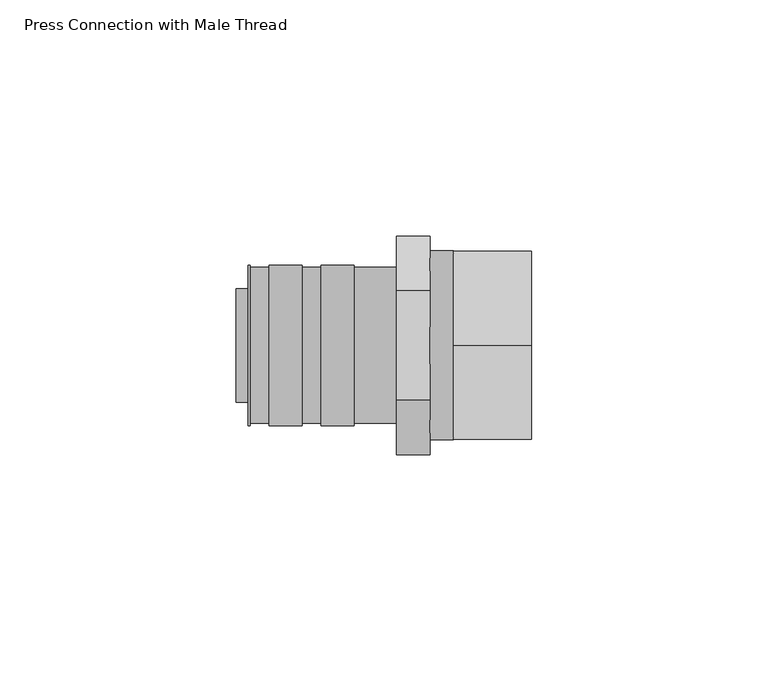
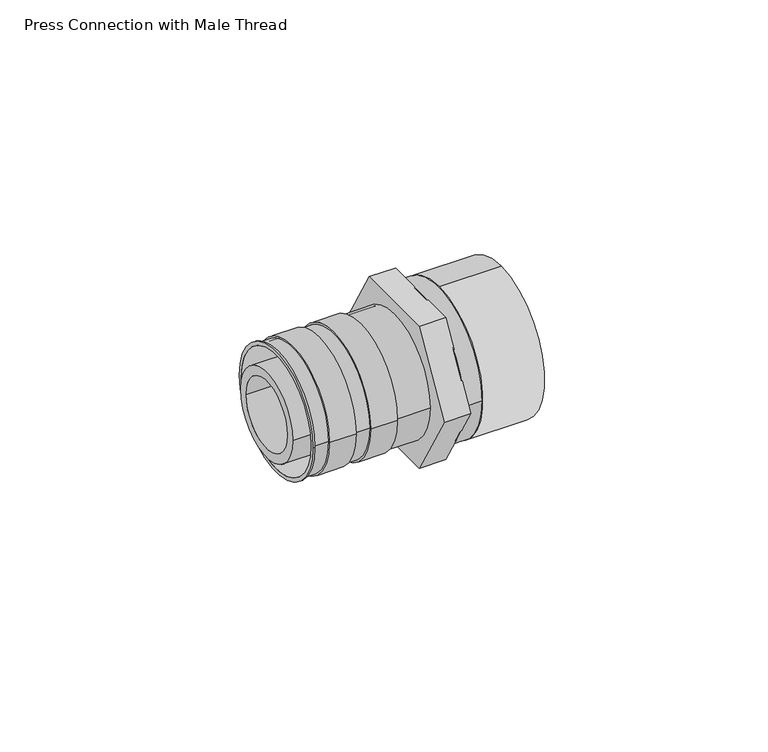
"""IFC4 building model written with IfcOpenShell, lengths in millimetres: pipe fitting geometry, Press Connection with Male Thread : Superpipe Press Connection - 32x1¼” MT."""

import ifcopenshell
import ifcopenshell.guid

model = None  # the IFC model being written
_history = None  # IfcOwnerHistory: only IFC2X3 demands one
_inside = {}  # id of a spatial element -> (the spatial element, [elements in it])
_under = {}  # id of a project, library or spatial element -> (it, [spatial elements below it])
_declared = {}  # id of a project -> (the project, [libraries it declares])
_typed = {}  # id of a type object -> (the type object, [elements of that type])
_made_of = {}  # id of a material, layer set ... -> (it, [elements and type objects made of it])


def new_model(schema):
    """Start an empty IFC model of exactly this schema.

    Asked for "IFC4X3", IfcOpenShell would pick the latest addendum, in which some entities
    have other attributes; the version numbers below select the first issue.
    IFC2X3 requires an IfcOwnerHistory on every rooted entity: one is made here for all.
    """
    global model, _history
    if schema == "IFC4X3":
        model = ifcopenshell.file(schema_version=(4, 3, 0, 0))
    else:
        model = ifcopenshell.file(schema=schema)
    _inside.clear()
    _under.clear()
    _declared.clear()
    _typed.clear()
    _made_of.clear()
    _history = None
    if model.schema == "IFC2X3":
        org = make("IfcOrganization", Name="unknown")
        user = make(
            "IfcPersonAndOrganization",
            ThePerson=make("IfcPerson", FamilyName="unknown"),
            TheOrganization=org,
        )
        app = make(
            "IfcApplication",
            ApplicationDeveloper=org,
            Version="unknown",
            ApplicationFullName="unknown",
            ApplicationIdentifier="unknown",
        )
        _history = make(
            "IfcOwnerHistory",
            OwningUser=user,
            OwningApplication=app,
            ChangeAction="ADDED",
            CreationDate=0,
        )
    return model


def make(cls, **values):
    """One entity of the class cls with the attributes given. An attribute that is None is left unset."""
    return model.create_entity(
        cls, **{name: value for name, value in values.items() if value is not None}
    )


def rooted(cls, **values):
    """An entity with a GlobalId (a new one), such as an element, a storey or a relation."""
    return make(cls, GlobalId=ifcopenshell.guid.new(), OwnerHistory=_history, **values)


def si_unit(unit_type, name, prefix=None):
    """IfcSIUnit, for example si_unit("LENGTHUNIT", "METRE", prefix="MILLI")."""
    return make("IfcSIUnit", UnitType=unit_type, Prefix=prefix, Name=name)


def assignment(units):
    """IfcUnitAssignment: the units of a project."""
    return None if units is None else make("IfcUnitAssignment", Units=units)


def point(xyz):
    """IfcCartesianPoint."""
    return None if xyz is None else make("IfcCartesianPoint", Coordinates=xyz)


def direction(xyz):
    """IfcDirection."""
    return None if xyz is None else make("IfcDirection", DirectionRatios=xyz)


def frame(location, z_axis=None, x_axis=None):
    """IfcAxis2Placement3D, a coordinate frame: its origin and axes. An axis left out is left unset."""
    return make(
        "IfcAxis2Placement3D",
        Location=point(location),
        Axis=direction(z_axis),
        RefDirection=direction(x_axis),
    )


def frame_2d(location, x_axis=None):
    """IfcAxis2Placement2D, a coordinate frame in the plane: its origin and x axis."""
    return make(
        "IfcAxis2Placement2D", Location=point(location), RefDirection=direction(x_axis)
    )


def origin():
    """The frame at (0, 0, 0) with its axes left unset."""
    return frame((0.0, 0.0, 0.0))


def origin_2d():
    """The frame at (0, 0) in the plane with its x axis left unset."""
    return frame_2d((0.0, 0.0))


def place(relative_to, where):
    """IfcLocalPlacement: puts the frame where relative to a parent placement (None: the world)."""
    return make(
        "IfcLocalPlacement", PlacementRelTo=relative_to, RelativePlacement=where
    )


def context(
    kind, dimensions, precision=None, world=None, true_north=None, identifier=None
):
    """IfcGeometricRepresentationContext, for example the 3D "Model" context."""
    return make(
        "IfcGeometricRepresentationContext",
        ContextIdentifier=identifier,
        ContextType=kind,
        CoordinateSpaceDimension=dimensions,
        Precision=precision,
        WorldCoordinateSystem=world,
        TrueNorth=true_north,
    )


def project(units=None, contexts=None):
    """IfcProject with its units and contexts."""
    return rooted(
        "IfcProject",
        Name="project",
        RepresentationContexts=contexts,
        UnitsInContext=assignment(units),
    )


def spatial(cls, under=None, at=None, **own):
    """A site, building, storey or space (cls), placed at a placement, below another one or the project."""
    s = rooted(cls, ObjectPlacement=at, **own)
    if under is not None:
        _under.setdefault(under.id(), (under, []))[1].append(s)
    return s


def polyline(points):
    """IfcPolyline through the points."""
    return make("IfcPolyline", Points=[point(p) for p in points])


def circle_curve(where, radius):
    """IfcCircle in the frame where."""
    return make("IfcCircle", Position=where, Radius=radius)


def trimmed(basis, trim1, trim2, sense, master):
    """IfcTrimmedCurve: the piece of a basis curve between two trims."""
    return make(
        "IfcTrimmedCurve",
        BasisCurve=basis,
        Trim1=trim1,
        Trim2=trim2,
        SenseAgreement=sense,
        MasterRepresentation=master,
    )


def segment(curve, same_sense, transition):
    """IfcCompositeCurveSegment."""
    return make(
        "IfcCompositeCurveSegment",
        Transition=transition,
        SameSense=same_sense,
        ParentCurve=curve,
    )


def composite_curve(segments, self_intersect=None):
    """IfcCompositeCurve: segments joined end to end."""
    return make("IfcCompositeCurve", Segments=segments, SelfIntersect=self_intersect)


def outline(outer, holes=None, kind="AREA"):
    """IfcArbitraryClosedProfileDef: a profile drawn as a closed curve; with holes, ...WithVoids."""
    if holes is None:
        return make("IfcArbitraryClosedProfileDef", ProfileType=kind, OuterCurve=outer)
    return make(
        "IfcArbitraryProfileDefWithVoids",
        ProfileType=kind,
        OuterCurve=outer,
        InnerCurves=holes,
    )


def extrude(swept, where, along, depth):
    """IfcExtrudedAreaSolid: the profile swept, set in the frame where, extruded along a direction by depth."""
    return make(
        "IfcExtrudedAreaSolid",
        SweptArea=swept,
        Position=where,
        ExtrudedDirection=direction(along),
        Depth=depth,
    )


def shape(context_of_items, identifier, shape_type, items):
    """IfcShapeRepresentation: the items that make up one representation, for example the "Body"."""
    return make(
        "IfcShapeRepresentation",
        ContextOfItems=context_of_items,
        RepresentationIdentifier=identifier,
        RepresentationType=shape_type,
        Items=items,
    )


def source(mapping_origin, context_of_items, identifier, shape_type, items):
    """IfcRepresentationMap: a shape defined once, which mapped items show again and again."""
    return make(
        "IfcRepresentationMap",
        MappingOrigin=mapping_origin,
        MappedRepresentation=shape(context_of_items, identifier, shape_type, items),
    )


def transform(
    local_origin,
    x_axis=None,
    y_axis=None,
    z_axis=None,
    scale=None,
    scale2=None,
    scale3=None,
    uniform=True,
):
    """IfcCartesianTransformationOperator3D, or its non-uniform kind. x_axis, y_axis, z_axis: its Axis1, 2, 3."""
    if uniform:
        return make(
            "IfcCartesianTransformationOperator3D",
            Axis1=direction(x_axis),
            Axis2=direction(y_axis),
            LocalOrigin=point(local_origin),
            Scale=scale,
            Axis3=direction(z_axis),
        )
    return make(
        "IfcCartesianTransformationOperator3DnonUniform",
        Axis1=direction(x_axis),
        Axis2=direction(y_axis),
        LocalOrigin=point(local_origin),
        Scale=scale,
        Axis3=direction(z_axis),
        Scale2=scale2,
        Scale3=scale3,
    )


def mapped(mapping_source, mapping_target):
    """IfcMappedItem: shows the shape of a source again, moved by a transform."""
    return make(
        "IfcMappedItem", MappingSource=mapping_source, MappingTarget=mapping_target
    )


def made_of(thing, what):
    """Note that an element or type object is made of a material, layer set ...; save() writes the relation."""
    if what is not None:
        _made_of.setdefault(what.id(), (what, []))[1].append(thing)
    return thing


def element(
    cls,
    number,
    at=None,
    inside=None,
    cuts=None,
    type_object=None,
    material=None,
    context=None,
    identifier="Body",
    shape_type=None,
    held_by="IfcProductDefinitionShape",
    body=None,
    shapes=None,
    **own,
):
    """One element of the class cls, such as IfcWall. Its Tag is "e" and its number.

    at: its placement. inside: the storey or other place that contains it. cuts: it is an
    opening in that element (IfcRelVoidsElement). A single representation is given by context,
    identifier, shape_type and body (its items); several are given by shapes. held_by: the class
    of the entity that holds the representations. save() writes the other relations.
    """
    e = rooted(cls, Tag="e%d" % number, ObjectPlacement=at, **own)
    if body is not None:
        shapes = [shape(context, identifier, shape_type, body)]
    if shapes is not None:
        e.Representation = make(held_by, Representations=shapes)
    if inside is not None:
        _inside.setdefault(inside.id(), (inside, []))[1].append(e)
    if cuts is not None:
        rooted(
            "IfcRelVoidsElement", RelatingBuildingElement=cuts, RelatedOpeningElement=e
        )
    if type_object is not None:
        _typed.setdefault(type_object.id(), (type_object, []))[1].append(e)
    return made_of(e, material)


def aggregate(whole, parts):
    """IfcRelAggregates: a whole, such as a stair, and the parts it consists of."""
    return rooted("IfcRelAggregates", RelatingObject=whole, RelatedObjects=parts)


def save(model, path):
    """Write the relations noted so far, then the file.

    IfcRelAggregates (storeys below a building ...), IfcRelContainedInSpatialStructure (elements
    in a storey), IfcRelDefinesByType, IfcRelAssociatesMaterial and IfcRelDeclares: one each for
    every whole, place, type object, material and project.
    """
    for whole, parts in _under.values():
        aggregate(whole, parts)
    for where, things in _inside.values():
        rooted(
            "IfcRelContainedInSpatialStructure",
            RelatedElements=things,
            RelatingStructure=where,
        )
    for kind, things in _typed.values():
        rooted("IfcRelDefinesByType", RelatedObjects=things, RelatingType=kind)
    for what, things in _made_of.values():
        rooted("IfcRelAssociatesMaterial", RelatedObjects=things, RelatingMaterial=what)
    for by, libraries in _declared.values():
        rooted("IfcRelDeclares", RelatingContext=by, RelatedDefinitions=libraries)
    model.write(path)


def plane_surface(at):
    """IfcPlane: the flat surface through the origin of the frame at, square to its z axis."""
    return make("IfcPlane", Position=at)


def cylinder_surface(at, radius):
    """IfcCylindricalSurface: all points at the distance radius from the z axis of the frame at."""
    return make("IfcCylindricalSurface", Position=at, Radius=radius)


def revolved_surface(curve, axis_point, axis_direction):
    """IfcSurfaceOfRevolution: the curve turned about the line through axis_point along axis_direction."""
    return make(
        "IfcSurfaceOfRevolution",
        SweptCurve=make("IfcArbitraryOpenProfileDef", ProfileType="CURVE", Curve=curve),
        AxisPosition=make("IfcAxis1Placement", Location=point(axis_point), Axis=direction(axis_direction)),
    )


def advanced_brep(points, edges, surfaces, faces):
    """IfcAdvancedBrep: a solid bounded by faces that lie on surfaces and meet in shared edges.

    An edge is (start, end): straight between two places in points (the first is 0);
    or (start, end, curve); or (start, end, curve, False) where it runs against its curve.
    A face is (place in surfaces, loops), or (place, loops, False) where it looks against
    its surface's normal. A loop lists edges by number (the first is 1), with a minus sign
    where the edge is run from its end to its start. The first loop is the outer one.
    """
    corners = [point(p) for p in points]
    vertices = [make("IfcVertexPoint", VertexGeometry=c) for c in corners]
    made = []
    for start, end, *more in edges:
        made.append(
            make(
                "IfcEdgeCurve",
                EdgeStart=vertices[start],
                EdgeEnd=vertices[end],
                EdgeGeometry=more[0] if more else make("IfcPolyline", Points=[corners[start], corners[end]]),
                SameSense=more[1] if len(more) > 1 else True,
            )
        )
    hull = []
    for where, loops, *sense in faces:
        bounds = []
        for j, loop in enumerate(loops):
            ring = [make("IfcOrientedEdge", EdgeElement=made[abs(k) - 1], Orientation=k > 0) for k in loop]
            bounds.append(
                make(
                    "IfcFaceOuterBound" if j == 0 else "IfcFaceBound",
                    Bound=make("IfcEdgeLoop", EdgeList=ring),
                    Orientation=True,
                )
            )
        hull.append(make("IfcAdvancedFace", Bounds=bounds, FaceSurface=surfaces[where], SameSense=sense[0] if sense else True))
    return make("IfcAdvancedBrep", Outer=make("IfcClosedShell", CfsFaces=hull))


def press_connection_with_male_thread_86ed2f91(model_context):
    return source(origin(), model_context, "Body", "SolidModel", [
        extrude(outline(composite_curve([segment(trimmed(circle_curve(origin_2d(), 20.0), [point((0.0, -20.0))], [point((0.0, 20.0))], False, "CARTESIAN"), True, "CONTINUOUS"), segment(trimmed(circle_curve(origin_2d(), 20.0), [point((0.0, 20.0))], [point((0.0, -20.0))], False, "CARTESIAN"), True, "CONTINUOUS")], self_intersect=False), holes=[composite_curve([segment(trimmed(circle_curve(origin_2d(), 16.0), [point((0.0, -16.0))], [point((0.0, 16.0))], True, "CARTESIAN"), True, "CONTINUOUS"), segment(trimmed(circle_curve(origin_2d(), 16.0), [point((0.0, 16.0))], [point((0.0, -16.0))], True, "CARTESIAN"), True, "CONTINUOUS")], self_intersect=False)]), frame((46.0, 0.0, 0.0), z_axis=(1.0, 0.0, 0.0), x_axis=(0.0, 1.0, 0.0)), (0.0, 0.0, 1.0), 16.5),
        advanced_brep(
        [(2.5, 17.0, 0.0), (2.5, -17.0, 0.0), (2.5, 16.0, 0.0), (2.5, -16.0, 0.0), (34.0, -16.5, 0.0), (34.0, 16.5, 0.0), (34.0, 16.0, 0.0), (34.0, -16.0, 0.0), (3.0, 17.0, 0.0), (3.0, -17.0, 0.0), (25.0, 17.0, 0.0), (25.0, -17.0, 0.0), (18.0, -17.0, 0.0), (18.0, 17.0, 0.0), (14.0, 17.0, 0.0), (14.0, -17.0, 0.0), (7.0, -17.0, 0.0), (7.0, 17.0, 0.0), (25.0, 16.5, 0.0), (25.0, -16.5, 0.0), (18.0, -16.5, 0.0), (18.0, 16.5, 0.0), (14.0, 16.5, 0.0), (14.0, -16.5, 0.0), (7.0, -16.5, 0.0), (7.0, 16.5, 0.0), (3.0, 16.5, 0.0), (3.0, -16.5, 0.0)],
        [
            (0, 1, circle_curve(frame((2.5, 0.0, 0.0), z_axis=(-1.0, 0.0, 0.0), x_axis=(0.0, -1.0, 0.0)), 17.0)),
            (1, 0, circle_curve(frame((2.5, 0.0, 0.0), z_axis=(-1.0, 0.0, 0.0), x_axis=(0.0, -1.0, 0.0)), 17.0)),
            (2, 3, circle_curve(frame((2.5, 0.0, 0.0), z_axis=(1.0, 0.0, 0.0), x_axis=(0.0, -1.0, 0.0)), 16.0)),
            (3, 2, circle_curve(frame((2.5, 0.0, 0.0), z_axis=(1.0, 0.0, 0.0), x_axis=(0.0, -1.0, 0.0)), 16.0)),
            (4, 5, circle_curve(frame((34.0, 0.0, 0.0), z_axis=(1.0, 0.0, 0.0), x_axis=(0.0, 1.0, 0.0)), 16.5)),
            (5, 4, circle_curve(frame((34.0, 0.0, 0.0), z_axis=(1.0, 0.0, 0.0), x_axis=(0.0, 1.0, 0.0)), 16.5)),
            (6, 7, circle_curve(frame((34.0, 0.0, 0.0), z_axis=(-1.0, 0.0, 0.0), x_axis=(0.0, -1.0, 0.0)), 16.0)),
            (7, 6, circle_curve(frame((34.0, 0.0, 0.0), z_axis=(-1.0, 0.0, 0.0), x_axis=(0.0, -1.0, 0.0)), 16.0)),
            (0, 8),
            (8, 9, circle_curve(frame((3.0, 0.0, 0.0), z_axis=(-1.0, 0.0, 0.0), x_axis=(0.0, -1.0, 0.0)), 17.0)),
            (9, 1),
            (10, 11, circle_curve(frame((25.0, 0.0, 0.0), z_axis=(-1.0, 0.0, 0.0), x_axis=(0.0, -1.0, 0.0)), 17.0)),
            (11, 12),
            (12, 13, circle_curve(frame((18.0, 0.0, 0.0), z_axis=(1.0, 0.0, 0.0), x_axis=(0.0, -1.0, 0.0)), 17.0)),
            (13, 10),
            (14, 15, circle_curve(frame((14.0, 0.0, 0.0), z_axis=(-1.0, 0.0, 0.0), x_axis=(0.0, -1.0, 0.0)), 17.0)),
            (15, 16),
            (16, 17, circle_curve(frame((7.0, 0.0, 0.0), z_axis=(1.0, 0.0, 0.0), x_axis=(0.0, -1.0, 0.0)), 17.0)),
            (17, 14),
            (9, 8, circle_curve(frame((3.0, 0.0, 0.0), z_axis=(-1.0, 0.0, 0.0), x_axis=(0.0, -1.0, 0.0)), 17.0)),
            (11, 10, circle_curve(frame((25.0, 0.0, 0.0), z_axis=(-1.0, 0.0, 0.0), x_axis=(0.0, -1.0, 0.0)), 17.0)),
            (13, 12, circle_curve(frame((18.0, 0.0, 0.0), z_axis=(1.0, 0.0, 0.0), x_axis=(0.0, -1.0, 0.0)), 17.0)),
            (15, 14, circle_curve(frame((14.0, 0.0, 0.0), z_axis=(-1.0, 0.0, 0.0), x_axis=(0.0, -1.0, 0.0)), 17.0)),
            (17, 16, circle_curve(frame((7.0, 0.0, 0.0), z_axis=(1.0, 0.0, 0.0), x_axis=(0.0, -1.0, 0.0)), 17.0)),
            (2, 6),
            (7, 3),
            (18, 19, circle_curve(frame((25.0, 0.0, 0.0), z_axis=(-1.0, 0.0, 0.0), x_axis=(0.0, 1.0, 0.0)), 16.5)),
            (19, 11),
            (10, 18),
            (19, 18, circle_curve(frame((25.0, 0.0, 0.0), z_axis=(-1.0, 0.0, 0.0), x_axis=(0.0, 1.0, 0.0)), 16.5)),
            (18, 5),
            (4, 19),
            (20, 21, circle_curve(frame((18.0, 0.0, 0.0), z_axis=(1.0, 0.0, 0.0), x_axis=(0.0, 1.0, 0.0)), 16.5)),
            (21, 13),
            (12, 20),
            (21, 20, circle_curve(frame((18.0, 0.0, 0.0), z_axis=(1.0, 0.0, 0.0), x_axis=(0.0, 1.0, 0.0)), 16.5)),
            (22, 23, circle_curve(frame((14.0, 0.0, 0.0), z_axis=(-1.0, 0.0, 0.0), x_axis=(0.0, 1.0, 0.0)), 16.5)),
            (23, 15),
            (14, 22),
            (23, 22, circle_curve(frame((14.0, 0.0, 0.0), z_axis=(-1.0, 0.0, 0.0), x_axis=(0.0, 1.0, 0.0)), 16.5)),
            (20, 23),
            (22, 21),
            (24, 25, circle_curve(frame((7.0, 0.0, 0.0), z_axis=(1.0, 0.0, 0.0), x_axis=(0.0, 1.0, 0.0)), 16.5)),
            (25, 17),
            (16, 24),
            (25, 24, circle_curve(frame((7.0, 0.0, 0.0), z_axis=(1.0, 0.0, 0.0), x_axis=(0.0, 1.0, 0.0)), 16.5)),
            (26, 27, circle_curve(frame((3.0, 0.0, 0.0), z_axis=(-1.0, 0.0, 0.0), x_axis=(0.0, 1.0, 0.0)), 16.5)),
            (27, 9),
            (8, 26),
            (27, 26, circle_curve(frame((3.0, 0.0, 0.0), z_axis=(-1.0, 0.0, 0.0), x_axis=(0.0, 1.0, 0.0)), 16.5)),
            (24, 27),
            (26, 25),
        ],
        [
            plane_surface(frame((2.5, -17.0, 0.0), z_axis=(-1.0, 0.0, 0.0), x_axis=(0.0, 0.0, 1.0))),
            plane_surface(frame((34.0, -17.0, 0.0), z_axis=(1.0, 0.0, 0.0), x_axis=(0.0, 0.0, -1.0))),
            cylinder_surface(frame((34.0, 0.0, 0.0), z_axis=(-1.0, 0.0, 0.0), x_axis=(0.0, -1.0, 0.0)), 17.0),
            revolved_surface(polyline([(34.0, -16.0, 0.0), (2.5, -16.0, 0.0)]), (34.0, 0.0, 0.0), (1.0, 0.0, 0.0)),
            plane_surface(frame((25.0, 0.0, 0.0), z_axis=(1.0, 0.0, 0.0), x_axis=(0.0, 1.0, 0.0))),
            cylinder_surface(frame((2000.5, 0.0, 0.0), z_axis=(-1.0, 0.0, 0.0), x_axis=(0.0, 1.0, 0.0)), 16.5),
            plane_surface(frame((18.0, 0.0, 0.0), z_axis=(-1.0, 0.0, 0.0), x_axis=(0.0, 1.0, 0.0))),
            plane_surface(frame((14.0, 0.0, 0.0), z_axis=(1.0, 0.0, 0.0), x_axis=(0.0, 1.0, 0.0))),
            plane_surface(frame((7.0, 0.0, 0.0), z_axis=(-1.0, 0.0, 0.0), x_axis=(0.0, 1.0, 0.0))),
            plane_surface(frame((3.0, 0.0, 0.0), z_axis=(1.0, 0.0, 0.0), x_axis=(0.0, 1.0, 0.0))),
        ],
        [
            (0, [[1, 2], [3, 4]]),
            (1, [[5, 6], [7, 8]]),
            (2, [[-1, 9, 10, 11]]),
            (2, [[12, 13, 14, 15]]),
            (2, [[16, 17, 18, 19]]),
            (2, [[-2, -11, 20, -9]]),
            (2, [[21, -15, 22, -13]]),
            (2, [[23, -19, 24, -17]]),
            (3, [[-3, 25, -8, 26]]),
            (3, [[-4, -26, -7, -25]]),
            (4, [[27, 28, -12, 29]]),
            (4, [[30, -29, -21, -28]]),
            (5, [[-27, 31, -5, 32]]),
            (5, [[-30, -32, -6, -31]]),
            (6, [[33, 34, -14, 35]]),
            (6, [[36, -35, -22, -34]]),
            (7, [[37, 38, -16, 39]]),
            (7, [[40, -39, -23, -38]]),
            (5, [[-33, 41, -37, 42]]),
            (5, [[-36, -42, -40, -41]]),
            (8, [[43, 44, -18, 45]]),
            (8, [[46, -45, -24, -44]]),
            (9, [[47, 48, -10, 49]]),
            (9, [[50, -49, -20, -48]]),
            (5, [[-43, 51, -47, 52]]),
            (5, [[-46, -52, -50, -51]]),
        ],
    ),
        extrude(outline(composite_curve([segment(trimmed(circle_curve(origin_2d(), 20.0), [point((-20.0, 0.0))], [point((20.0, 0.0))], False, "CARTESIAN"), True, "CONTINUOUS"), segment(trimmed(circle_curve(origin_2d(), 20.0), [point((20.0, 0.0))], [point((-20.0, 0.0))], False, "CARTESIAN"), True, "CONTINUOUS")], self_intersect=False), holes=[composite_curve([segment(trimmed(circle_curve(origin_2d(), 16.0), [point((-16.0, 0.0))], [point((16.0, 0.0))], True, "CARTESIAN"), True, "CONTINUOUS"), segment(trimmed(circle_curve(origin_2d(), 16.0), [point((16.0, 0.0))], [point((-16.0, 0.0))], True, "CARTESIAN"), True, "CONTINUOUS")], self_intersect=False)]), frame((41.0, 0.0, 0.0), z_axis=(1.0, 0.0, 0.0), x_axis=(0.0, 1.0, 0.0)), (0.0, 0.0, 1.0), 5.0),
        extrude(outline(polyline([(-23.0940108, 0.0), (-11.5470054, 20.0), (11.5470054, 20.0), (23.0940108, 0.0), (11.5470054, -20.0), (-11.5470054, -20.0), (-23.0940108, 0.0)]), holes=[composite_curve([segment(trimmed(circle_curve(origin_2d(), 9.5), [point((9.5, 0.0))], [point((-9.5, 0.0))], True, "CARTESIAN"), True, "CONTINUOUS"), segment(trimmed(circle_curve(origin_2d(), 9.5), [point((-9.5, 0.0))], [point((9.5, 0.0))], True, "CARTESIAN"), True, "CONTINUOUS")], self_intersect=False)]), frame((34.0, 0.0, 0.0), z_axis=(1.0, 0.0, 0.0), x_axis=(0.0, 1.0, 0.0)), (0.0, 0.0, 1.0), 7.0),
        extrude(outline(composite_curve([segment(trimmed(circle_curve(origin_2d(), 12.0), [point((-12.0, 0.0))], [point((12.0, 0.0))], False, "CARTESIAN"), True, "CONTINUOUS"), segment(trimmed(circle_curve(origin_2d(), 12.0), [point((12.0, 0.0))], [point((-12.0, 0.0))], False, "CARTESIAN"), True, "CONTINUOUS")], self_intersect=False), holes=[composite_curve([segment(trimmed(circle_curve(origin_2d(), 9.5), [point((9.5, 0.0))], [point((-9.5, 0.0))], True, "CARTESIAN"), True, "CONTINUOUS"), segment(trimmed(circle_curve(origin_2d(), 9.5), [point((-9.5, 0.0))], [point((9.5, 0.0))], True, "CARTESIAN"), True, "CONTINUOUS")], self_intersect=False)]), frame((0.0, 0.0, 0.0), z_axis=(1.0, 0.0, 0.0), x_axis=(0.0, 1.0, 0.0)), (0.0, 0.0, 1.0), 34.0),
    ])


if __name__ == "__main__":
    model = new_model("IFC4")
    model_context = context("Model", 3, world=origin())
    ifc_project = project(units=[si_unit("LENGTHUNIT", "METRE", prefix="MILLI")], contexts=[model_context])
    site = spatial("IfcSite", under=ifc_project)
    building = spatial("IfcBuilding", under=site)
    placement = place(None, origin())
    press_connection_with_male_thread_shape = press_connection_with_male_thread_86ed2f91(model_context)
    element("IfcPipeFitting", 1, ObjectType="Press Connection with Male Thread : Superpipe Press Connection - 32x1¼” MT", at=placement, inside=building, context=model_context, shape_type="MappedRepresentation", body=[
        mapped(press_connection_with_male_thread_shape, transform((0.0, 0.0, 0.0), x_axis=(1.0, 0.0, 0.0), y_axis=(0.0, 1.0, 0.0), z_axis=(0.0, 0.0, 1.0))),
    ])
    save(model, "model.ifc")
